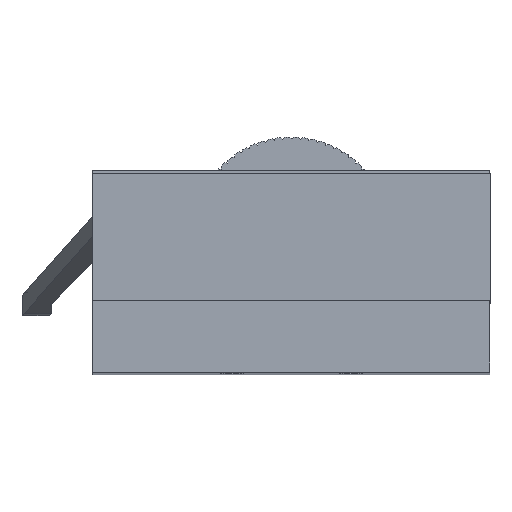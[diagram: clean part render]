
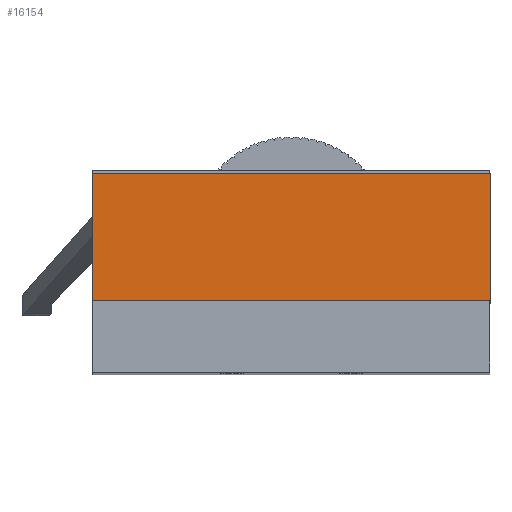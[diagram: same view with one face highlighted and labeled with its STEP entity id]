
A CAD part, top view. The second image highlights one B-rep face of the part: STEP entity #16154.
In plain terms, the highlighted planar face has unit normal (0, 0, 1).
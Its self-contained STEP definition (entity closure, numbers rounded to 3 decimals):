
#456 = ORIENTED_EDGE ( 'NONE', *, *, #9832, .F. ) ;
#2432 = EDGE_CURVE ( 'NONE', #6646, #4772, #5317, .T. ) ;
#3587 = VERTEX_POINT ( 'NONE', #17138 ) ;
#3843 = CARTESIAN_POINT ( 'NONE',  ( 50., 41., 420. ) ) ;
#4466 = LINE ( 'NONE', #15129, #7526 ) ;
#4772 = VERTEX_POINT ( 'NONE', #3843 ) ;
#5096 = DIRECTION ( 'NONE',  ( 0., -1., 0. ) ) ;
#5317 = LINE ( 'NONE', #17135, #10507 ) ;
#6646 = VERTEX_POINT ( 'NONE', #11581 ) ;
#7011 = ORIENTED_EDGE ( 'NONE', *, *, #2432, .F. ) ;
#7524 = CARTESIAN_POINT ( 'NONE',  ( 50., 9., 420. ) ) ;
#7526 = VECTOR ( 'NONE', #14932, 1000. ) ;
#7819 = VERTEX_POINT ( 'NONE', #7524 ) ;
#7917 = PLANE ( 'NONE',  #10924 ) ;
#9350 = ORIENTED_EDGE ( 'NONE', *, *, #10013, .F. ) ;
#9455 = CARTESIAN_POINT ( 'NONE',  ( 0., 25., 420. ) ) ;
#9832 = EDGE_CURVE ( 'NONE', #4772, #7819, #18413, .T. ) ;
#10013 = EDGE_CURVE ( 'NONE', #7819, #3587, #14020, .T. ) ;
#10507 = VECTOR ( 'NONE', #15597, 1000. ) ;
#10924 = AXIS2_PLACEMENT_3D ( 'NONE', #9455, #12466, #5096 ) ;
#11042 = CARTESIAN_POINT ( 'NONE',  ( 50., 41., 420. ) ) ;
#11486 = ORIENTED_EDGE ( 'NONE', *, *, #14238, .F. ) ;
#11548 = EDGE_LOOP ( 'NONE', ( #11486, #9350, #456, #7011 ) ) ;
#11581 = CARTESIAN_POINT ( 'NONE',  ( -50., 41., 420. ) ) ;
#12178 = FACE_OUTER_BOUND ( 'NONE', #11548, .T. ) ;
#12466 = DIRECTION ( 'NONE',  ( 0., 0., -1. ) ) ;
#14020 = LINE ( 'NONE', #15470, #16987 ) ;
#14238 = EDGE_CURVE ( 'NONE', #3587, #6646, #4466, .T. ) ;
#14932 = DIRECTION ( 'NONE',  ( 0., 1., 0. ) ) ;
#15129 = CARTESIAN_POINT ( 'NONE',  ( -50., 41., 420. ) ) ;
#15470 = CARTESIAN_POINT ( 'NONE',  ( 50., 9., 420. ) ) ;
#15597 = DIRECTION ( 'NONE',  ( 1., 0., 0. ) ) ;
#16154 = ADVANCED_FACE ( 'NONE', ( #12178 ), #7917, .F. ) ;
#16692 = VECTOR ( 'NONE', #16952, 1000. ) ;
#16952 = DIRECTION ( 'NONE',  ( 0., -1., 0. ) ) ;
#16987 = VECTOR ( 'NONE', #18275, 1000. ) ;
#17135 = CARTESIAN_POINT ( 'NONE',  ( 50., 41., 420. ) ) ;
#17138 = CARTESIAN_POINT ( 'NONE',  ( -50., 9., 420. ) ) ;
#18275 = DIRECTION ( 'NONE',  ( -1., 0., 0. ) ) ;
#18413 = LINE ( 'NONE', #11042, #16692 ) ;
